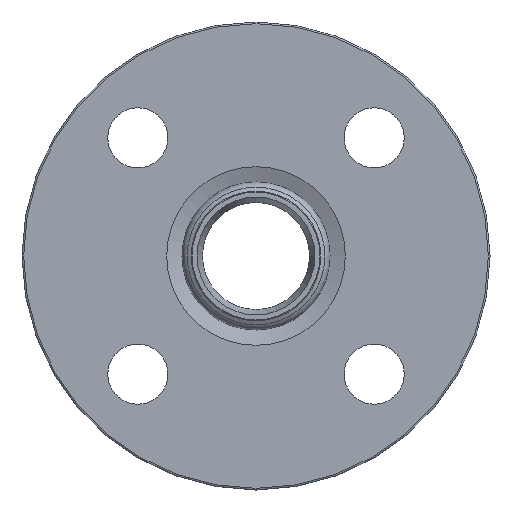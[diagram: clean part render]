
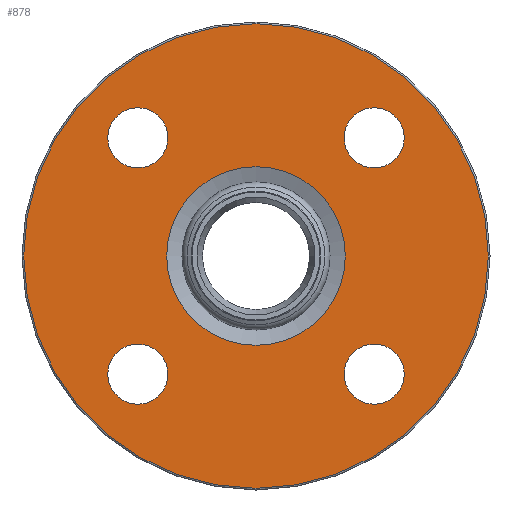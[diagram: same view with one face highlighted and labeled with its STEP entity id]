
A CAD part, left-side view. The second image highlights one B-rep face of the part: STEP entity #878.
In plain terms, the highlighted planar face has unit normal (-1, 0, 0) as drawn and (0, 0, 1) by its records, which use the part's own axes.
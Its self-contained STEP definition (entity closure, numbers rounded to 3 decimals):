
#803=CARTESIAN_POINT('',(0.0,-26.721,0.));
#804=VERTEX_POINT('',#803);
#805=CARTESIAN_POINT('',(0.0,0.0,0.0));
#806=DIRECTION('',(0.0,0.0,-1.0));
#807=DIRECTION('',(0.0,-1.0,0.0));
#808=AXIS2_PLACEMENT_3D('',#805,#806,#807);
#809=CIRCLE('',#808,26.721);
#810=EDGE_CURVE('',#804,#804,#809,.T.);
#815=CARTESIAN_POINT('',(0.0,0.0,0.0));
#816=DIRECTION('',(0.0,0.0,-1.0));
#817=DIRECTION('',(-1.0,0.0,0.0));
#818=AXIS2_PLACEMENT_3D('',#815,#816,#817);
#819=PLANE('',#818);
#820=CARTESIAN_POINT('',(69.5,0.,0.0));
#821=VERTEX_POINT('',#820);
#822=CARTESIAN_POINT('',(0.0,0.0,0.0));
#823=DIRECTION('',(0.0,0.0,-1.0));
#824=DIRECTION('',(-1.0,0.0,0.0));
#825=AXIS2_PLACEMENT_3D('',#822,#823,#824);
#826=CIRCLE('',#825,69.5);
#827=EDGE_CURVE('',#821,#821,#826,.T.);
#828=ORIENTED_EDGE('',*,*,#827,.F.);
#829=EDGE_LOOP('',(#828));
#830=FACE_OUTER_BOUND('',#829,.T.);
#831=CARTESIAN_POINT('',(-26.355,-35.355,0.0));
#832=VERTEX_POINT('',#831);
#833=CARTESIAN_POINT('',(-35.355,-35.355,0.0));
#834=DIRECTION('',(0.0,0.0,-1.0));
#835=DIRECTION('',(-1.0,0.0,0.0));
#836=AXIS2_PLACEMENT_3D('',#833,#834,#835);
#837=CIRCLE('',#836,9.0);
#838=EDGE_CURVE('',#832,#832,#837,.T.);
#839=ORIENTED_EDGE('',*,*,#838,.T.);
#840=EDGE_LOOP('',(#839));
#841=FACE_BOUND('',#840,.T.);
#842=CARTESIAN_POINT('',(44.355,-35.355,0.0));
#843=VERTEX_POINT('',#842);
#844=CARTESIAN_POINT('',(35.355,-35.355,0.0));
#845=DIRECTION('',(0.0,0.0,-1.0));
#846=DIRECTION('',(-1.0,0.0,0.0));
#847=AXIS2_PLACEMENT_3D('',#844,#845,#846);
#848=CIRCLE('',#847,9.0);
#849=EDGE_CURVE('',#843,#843,#848,.T.);
#850=ORIENTED_EDGE('',*,*,#849,.T.);
#851=EDGE_LOOP('',(#850));
#852=FACE_BOUND('',#851,.T.);
#853=CARTESIAN_POINT('',(44.355,35.355,0.0));
#854=VERTEX_POINT('',#853);
#855=CARTESIAN_POINT('',(35.355,35.355,0.0));
#856=DIRECTION('',(0.0,0.0,-1.0));
#857=DIRECTION('',(-1.0,0.0,0.0));
#858=AXIS2_PLACEMENT_3D('',#855,#856,#857);
#859=CIRCLE('',#858,9.0);
#860=EDGE_CURVE('',#854,#854,#859,.T.);
#861=ORIENTED_EDGE('',*,*,#860,.T.);
#862=EDGE_LOOP('',(#861));
#863=FACE_BOUND('',#862,.T.);
#864=CARTESIAN_POINT('',(-26.355,35.355,0.0));
#865=VERTEX_POINT('',#864);
#866=CARTESIAN_POINT('',(-35.355,35.355,0.0));
#867=DIRECTION('',(0.0,0.0,-1.0));
#868=DIRECTION('',(-1.0,0.0,0.0));
#869=AXIS2_PLACEMENT_3D('',#866,#867,#868);
#870=CIRCLE('',#869,9.0);
#871=EDGE_CURVE('',#865,#865,#870,.T.);
#872=ORIENTED_EDGE('',*,*,#871,.T.);
#873=EDGE_LOOP('',(#872));
#874=FACE_BOUND('',#873,.T.);
#875=ORIENTED_EDGE('',*,*,#810,.T.);
#876=EDGE_LOOP('',(#875));
#877=FACE_BOUND('',#876,.T.);
#878=ADVANCED_FACE('',(#830,#841,#852,#863,#874,#877),#819,.F.);
